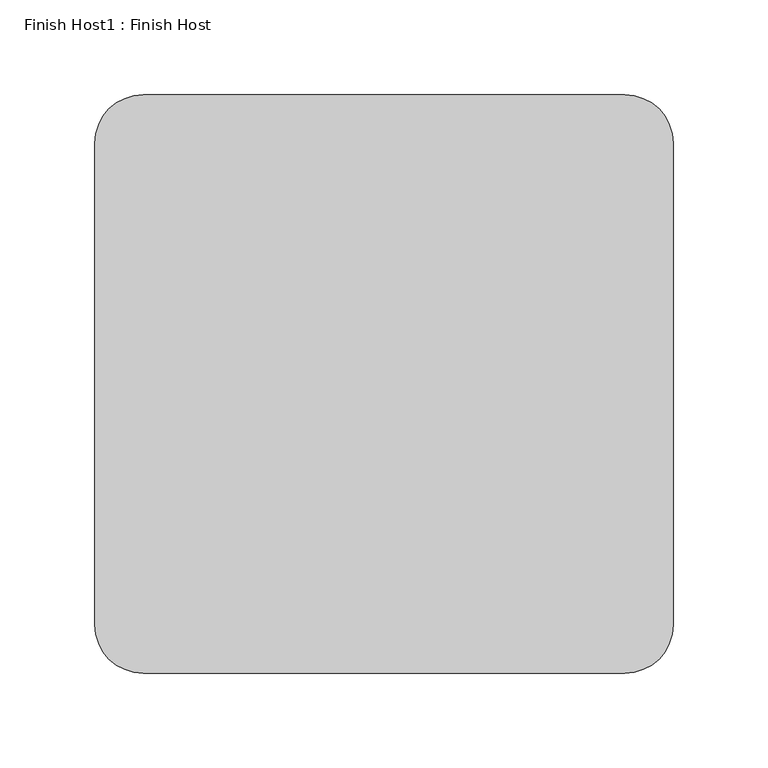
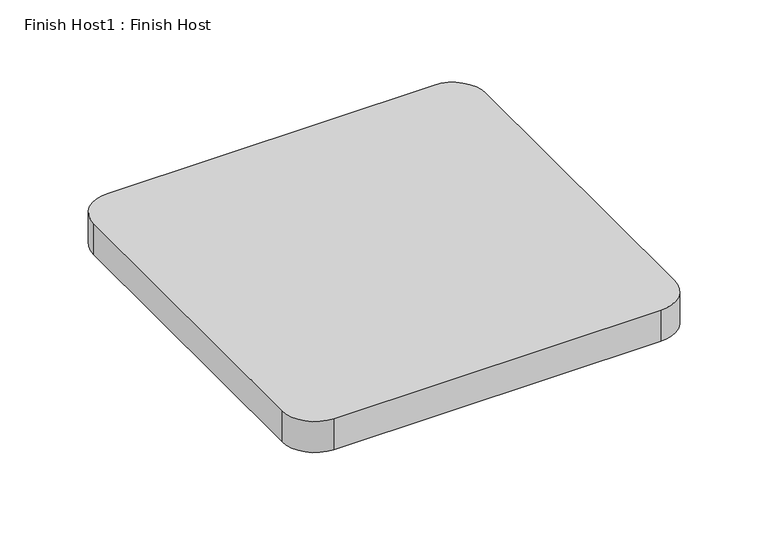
"""IFC4 building model written with IfcOpenShell, lengths in millimetres: proxy geometry, Finish Host1 : Finish Host."""

from ifc_helpers import new_model, si_unit, point, frame_2d, origin, origin_with_axes, place, context, project, spatial, polyline, circle_curve, trimmed, segment, composite_curve, outline, extrude, source, transform, mapped, element, save


def finish_host1_finish_host_6c8288fe(model_context):
    return source(origin(), model_context, "Body", "SweptSolid", [
        extrude(outline(composite_curve([segment(polyline([(1190.1649374, 3242.5667263), (1190.1649374, 3496.5667263)]), True, "CONTINUOUS"), segment(trimmed(circle_curve(frame_2d((1215.5649374, 3496.5667263)), 25.4), [point((1190.1649374, 3496.5667263))], [point((1215.5649374, 3521.9667263))], False, "CARTESIAN"), True, "CONTINUOUS"), segment(polyline([(1215.5649374, 3521.9667263), (1469.5649374, 3521.9667263)]), True, "CONTINUOUS"), segment(trimmed(circle_curve(frame_2d((1469.5649374, 3496.5667263)), 25.4), [point((1469.5649374, 3521.9667263))], [point((1494.9649374, 3496.5667263))], False, "CARTESIAN"), True, "CONTINUOUS"), segment(polyline([(1494.9649374, 3496.5667263), (1494.9649374, 3242.5667263)]), True, "CONTINUOUS"), segment(trimmed(circle_curve(frame_2d((1469.5649374, 3242.5667263)), 25.4), [point((1494.9649374, 3242.5667263))], [point((1469.5649374, 3217.1667263))], False, "CARTESIAN"), True, "CONTINUOUS"), segment(polyline([(1469.5649374, 3217.1667263), (1215.5649374, 3217.1667263)]), True, "CONTINUOUS"), segment(trimmed(circle_curve(frame_2d((1215.5649374, 3242.5667263)), 25.4), [point((1215.5649374, 3217.1667263))], [point((1190.1649374, 3242.5667263))], False, "CARTESIAN"), True, "CONTINUOUS")], self_intersect=False)), origin_with_axes(), (0.0, 0.0, 1.0), 25.4),
    ])


if __name__ == "__main__":
    model = new_model("IFC4")
    model_context = context("Model", 3, world=origin())
    ifc_project = project(units=[si_unit("LENGTHUNIT", "METRE", prefix="MILLI")], contexts=[model_context])
    site = spatial("IfcSite", under=ifc_project)
    building = spatial("IfcBuilding", under=site)
    placement = place(None, origin())
    finish_host1_finish_host_shape = finish_host1_finish_host_6c8288fe(model_context)
    element("IfcBuildingElementProxy", 1, Name="Finish Host1 : Finish Host", ObjectType="Finish Host1 : Finish Host", at=placement, inside=building, context=model_context, shape_type="MappedRepresentation", body=[
        mapped(finish_host1_finish_host_shape, transform((0.0, 0.0, 0.0), x_axis=(1.0, 0.0, 0.0), y_axis=(0.0, 1.0, 0.0), z_axis=(0.0, 0.0, 1.0))),
    ])
    save(model, "model.ifc")
